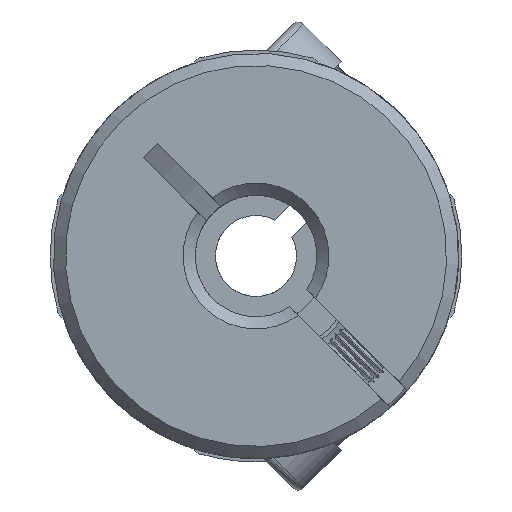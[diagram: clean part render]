
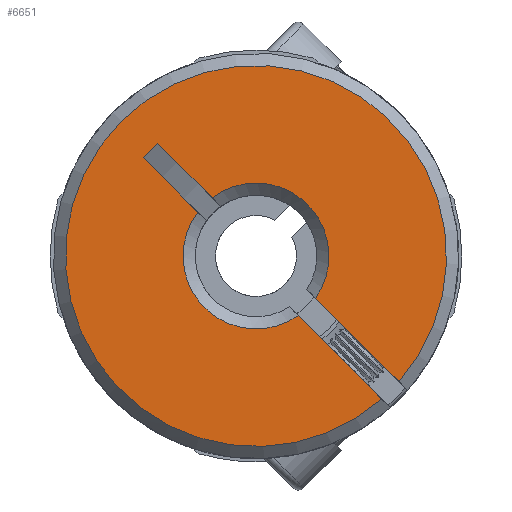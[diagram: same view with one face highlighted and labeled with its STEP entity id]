
A CAD part, front view. The second image highlights one B-rep face of the part: STEP entity #6651.
In plain terms, the highlighted planar face has unit normal (0, -1, 0).
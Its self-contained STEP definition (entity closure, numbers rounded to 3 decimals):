
#96 = ORIENTED_EDGE ( 'NONE', *, *, #932, .F. ) ;
#301 = DIRECTION ( 'NONE',  ( 0.707, 0., -0.707 ) ) ;
#504 = CIRCLE ( 'NONE', #2616, 3.6 ) ;
#564 = ORIENTED_EDGE ( 'NONE', *, *, #5962, .T. ) ;
#756 = ORIENTED_EDGE ( 'NONE', *, *, #11540, .F. ) ;
#932 = EDGE_CURVE ( 'NONE', #3173, #10909, #6772, .T. ) ;
#943 = EDGE_CURVE ( 'NONE', #2550, #10914, #8036, .T. ) ;
#976 = VECTOR ( 'NONE', #1174, 1000. ) ;
#1001 = VECTOR ( 'NONE', #5564, 1000. ) ;
#1174 = DIRECTION ( 'NONE',  ( 0.707, 0., -0.707 ) ) ;
#1674 = CARTESIAN_POINT ( 'NONE',  ( 1.654, -12.6, -2.503 ) ) ;
#2261 = EDGE_CURVE ( 'NONE', #10914, #6879, #12618, .T. ) ;
#2337 = VECTOR ( 'NONE', #8709, 1000. ) ;
#2447 = CARTESIAN_POINT ( 'NONE',  ( -2.167, -12.6, 2.874 ) ) ;
#2550 = VERTEX_POINT ( 'NONE', #3921 ) ;
#2616 = AXIS2_PLACEMENT_3D ( 'NONE', #2862, #6951, #9951 ) ;
#2862 = CARTESIAN_POINT ( 'NONE',  ( 0., -12.6, 0. ) ) ;
#3037 = FACE_OUTER_BOUND ( 'NONE', #9651, .T. ) ;
#3058 = VECTOR ( 'NONE', #9735, 1000. ) ;
#3173 = VERTEX_POINT ( 'NONE', #12335 ) ;
#3385 = AXIS2_PLACEMENT_3D ( 'NONE', #10379, #12451, #6578 ) ;
#3656 = LINE ( 'NONE', #7173, #976 ) ;
#3732 = VECTOR ( 'NONE', #8844, 1000. ) ;
#3921 = CARTESIAN_POINT ( 'NONE',  ( -4.842, -12.6, 5.549 ) ) ;
#4319 = CARTESIAN_POINT ( 'NONE',  ( 0., -12.6, 0. ) ) ;
#4358 = CIRCLE ( 'NONE', #9712, 9.4 ) ;
#4472 = CARTESIAN_POINT ( 'NONE',  ( -4.842, -12.6, 5.549 ) ) ;
#4494 = CARTESIAN_POINT ( 'NONE',  ( 0., -12.6, 0. ) ) ;
#4535 = AXIS2_PLACEMENT_3D ( 'NONE', #4319, #11441, #301 ) ;
#4869 = CARTESIAN_POINT ( 'NONE',  ( 7.058, -12.6, -6.209 ) ) ;
#5067 = VERTEX_POINT ( 'NONE', #11589 ) ;
#5127 = LINE ( 'NONE', #4472, #1001 ) ;
#5179 = EDGE_CURVE ( 'NONE', #12334, #6879, #11012, .T. ) ;
#5564 = DIRECTION ( 'NONE',  ( -0.707, 0., -0.707 ) ) ;
#5655 = CARTESIAN_POINT ( 'NONE',  ( 2.934, -12.6, -2.086 ) ) ;
#5683 = DIRECTION ( 'NONE',  ( 0., -1., 0. ) ) ;
#5714 = VERTEX_POINT ( 'NONE', #9625 ) ;
#5774 = CARTESIAN_POINT ( 'NONE',  ( 2.503, -12.6, -1.654 ) ) ;
#5807 = CARTESIAN_POINT ( 'NONE',  ( 5.657, -12.6, -4.95 ) ) ;
#5962 = EDGE_CURVE ( 'NONE', #3173, #5714, #504, .T. ) ;
#6578 = DIRECTION ( 'NONE',  ( 0.707, 0., -0.707 ) ) ;
#6651 = ADVANCED_FACE ( 'NONE', ( #3037 ), #7304, .F. ) ;
#6772 = LINE ( 'NONE', #1674, #2337 ) ;
#6879 = VERTEX_POINT ( 'NONE', #5655 ) ;
#6951 = DIRECTION ( 'NONE',  ( 0., 1., 0. ) ) ;
#7173 = CARTESIAN_POINT ( 'NONE',  ( 4.95, -12.6, -5.657 ) ) ;
#7304 = PLANE ( 'NONE',  #3385 ) ;
#7767 = ORIENTED_EDGE ( 'NONE', *, *, #2261, .T. ) ;
#8036 = LINE ( 'NONE', #5807, #3732 ) ;
#8709 = DIRECTION ( 'NONE',  ( 0.707, 0., -0.707 ) ) ;
#8844 = DIRECTION ( 'NONE',  ( 0.707, 0., -0.707 ) ) ;
#9489 = CARTESIAN_POINT ( 'NONE',  ( 6.209, -12.6, -7.058 ) ) ;
#9625 = CARTESIAN_POINT ( 'NONE',  ( -2.874, -12.6, 2.167 ) ) ;
#9651 = EDGE_LOOP ( 'NONE', ( #12666, #7767, #9907, #11930, #96, #564, #10953, #756 ) ) ;
#9712 = AXIS2_PLACEMENT_3D ( 'NONE', #4494, #5683, #10713 ) ;
#9735 = DIRECTION ( 'NONE',  ( -0.707, 0., 0.707 ) ) ;
#9907 = ORIENTED_EDGE ( 'NONE', *, *, #5179, .F. ) ;
#9951 = DIRECTION ( 'NONE',  ( 0.707, 0., -0.707 ) ) ;
#9980 = EDGE_CURVE ( 'NONE', #12334, #10909, #4358, .T. ) ;
#10379 = CARTESIAN_POINT ( 'NONE',  ( 342.528, -12.6, 364.579 ) ) ;
#10713 = DIRECTION ( 'NONE',  ( 0.707, 0., -0.707 ) ) ;
#10909 = VERTEX_POINT ( 'NONE', #9489 ) ;
#10914 = VERTEX_POINT ( 'NONE', #2447 ) ;
#10953 = ORIENTED_EDGE ( 'NONE', *, *, #13029, .F. ) ;
#11012 = LINE ( 'NONE', #5774, #3058 ) ;
#11441 = DIRECTION ( 'NONE',  ( 0., 1., 0. ) ) ;
#11540 = EDGE_CURVE ( 'NONE', #2550, #5067, #5127, .T. ) ;
#11589 = CARTESIAN_POINT ( 'NONE',  ( -5.549, -12.6, 4.842 ) ) ;
#11930 = ORIENTED_EDGE ( 'NONE', *, *, #9980, .T. ) ;
#12334 = VERTEX_POINT ( 'NONE', #4869 ) ;
#12335 = CARTESIAN_POINT ( 'NONE',  ( 2.086, -12.6, -2.934 ) ) ;
#12451 = DIRECTION ( 'NONE',  ( 0., 1., 0. ) ) ;
#12618 = CIRCLE ( 'NONE', #4535, 3.6 ) ;
#12666 = ORIENTED_EDGE ( 'NONE', *, *, #943, .T. ) ;
#13029 = EDGE_CURVE ( 'NONE', #5067, #5714, #3656, .T. ) ;
